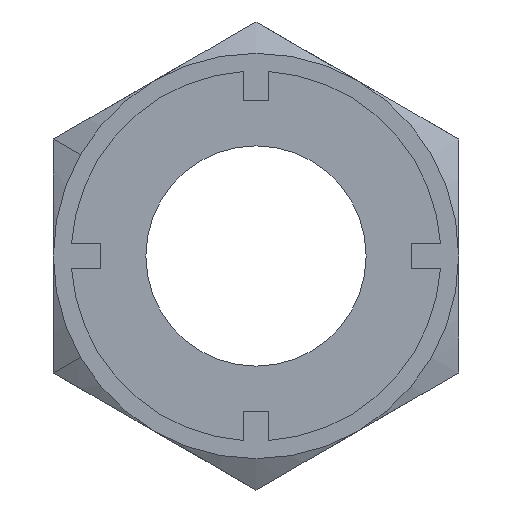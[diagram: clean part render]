
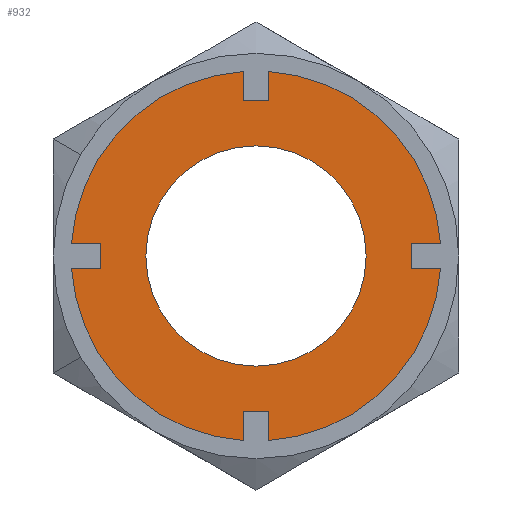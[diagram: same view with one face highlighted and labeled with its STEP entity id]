
A CAD part, left-side view. The second image highlights one B-rep face of the part: STEP entity #932.
In plain terms, the highlighted planar face has unit normal (-1, 0, 0).
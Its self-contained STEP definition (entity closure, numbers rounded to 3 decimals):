
#130=CARTESIAN_POINT('',(-30.0,0.,12.5));
#131=VERTEX_POINT('',#130);
#140=CARTESIAN_POINT('',(-30.0,12.5,0.0));
#141=VERTEX_POINT('',#140);
#142=CARTESIAN_POINT('',(-30.0,0.0,0.0));
#143=DIRECTION('',(1.0,0.0,0.0));
#144=DIRECTION('',(0.0,1.0,0.0));
#145=AXIS2_PLACEMENT_3D('',#142,#143,#144);
#146=CIRCLE('',#145,12.5);
#147=EDGE_CURVE('',#141,#131,#146,.T.);
#332=CARTESIAN_POINT('',(-30.0,0.,-12.5));
#333=VERTEX_POINT('',#332);
#342=CARTESIAN_POINT('',(-30.0,-12.5,0.));
#343=VERTEX_POINT('',#342);
#344=CARTESIAN_POINT('',(-30.0,0.0,0.0));
#345=DIRECTION('',(1.0,0.0,0.0));
#346=DIRECTION('',(0.0,1.0,0.0));
#347=AXIS2_PLACEMENT_3D('',#344,#345,#346);
#348=CIRCLE('',#347,12.5);
#349=EDGE_CURVE('',#343,#333,#348,.T.);
#383=CARTESIAN_POINT('',(-30.0,0.0,0.0));
#384=DIRECTION('',(1.0,0.0,0.0));
#385=DIRECTION('',(0.0,1.0,0.0));
#386=AXIS2_PLACEMENT_3D('',#383,#384,#385);
#387=CIRCLE('',#386,12.5);
#388=EDGE_CURVE('',#333,#141,#387,.T.);
#400=CARTESIAN_POINT('',(-30.0,20.95,1.45));
#401=VERTEX_POINT('',#400);
#416=CARTESIAN_POINT('',(-30.0,17.6,1.45));
#417=VERTEX_POINT('',#416);
#424=CARTESIAN_POINT('',(-30.0,20.95,1.45));
#425=DIRECTION('',(0.0,-1.0,0.0));
#426=VECTOR('',#425,3.35);
#427=LINE('',#424,#426);
#428=EDGE_CURVE('',#401,#417,#427,.T.);
#438=CARTESIAN_POINT('',(-30.0,20.95,-1.45));
#439=VERTEX_POINT('',#438);
#448=CARTESIAN_POINT('',(-30.0,17.6,-1.45));
#449=VERTEX_POINT('',#448);
#450=CARTESIAN_POINT('',(-30.0,17.6,-1.45));
#451=DIRECTION('',(0.0,1.0,0.0));
#452=VECTOR('',#451,3.35);
#453=LINE('',#450,#452);
#454=EDGE_CURVE('',#449,#439,#453,.T.);
#485=CARTESIAN_POINT('',(-30.0,17.6,1.45));
#486=DIRECTION('',(0.0,0.0,-1.0));
#487=VECTOR('',#486,2.9);
#488=LINE('',#485,#487);
#489=EDGE_CURVE('',#417,#449,#488,.T.);
#502=CARTESIAN_POINT('',(-30.0,-1.45,20.95));
#503=VERTEX_POINT('',#502);
#518=CARTESIAN_POINT('',(-30.0,-1.45,17.6));
#519=VERTEX_POINT('',#518);
#526=CARTESIAN_POINT('',(-30.0,-1.45,20.95));
#527=DIRECTION('',(0.0,0.0,-1.0));
#528=VECTOR('',#527,3.35);
#529=LINE('',#526,#528);
#530=EDGE_CURVE('',#503,#519,#529,.T.);
#540=CARTESIAN_POINT('',(-30.0,1.45,20.95));
#541=VERTEX_POINT('',#540);
#550=CARTESIAN_POINT('',(-30.0,1.45,17.6));
#551=VERTEX_POINT('',#550);
#552=CARTESIAN_POINT('',(-30.0,1.45,17.6));
#553=DIRECTION('',(0.0,0.0,1.0));
#554=VECTOR('',#553,3.35);
#555=LINE('',#552,#554);
#556=EDGE_CURVE('',#551,#541,#555,.T.);
#587=CARTESIAN_POINT('',(-30.0,-1.45,17.6));
#588=DIRECTION('',(0.0,1.0,0.0));
#589=VECTOR('',#588,2.9);
#590=LINE('',#587,#589);
#591=EDGE_CURVE('',#519,#551,#590,.T.);
#604=CARTESIAN_POINT('',(-30.0,-20.95,-1.45));
#605=VERTEX_POINT('',#604);
#620=CARTESIAN_POINT('',(-30.0,-17.6,-1.45));
#621=VERTEX_POINT('',#620);
#628=CARTESIAN_POINT('',(-30.0,-20.95,-1.45));
#629=DIRECTION('',(0.0,1.0,0.0));
#630=VECTOR('',#629,3.35);
#631=LINE('',#628,#630);
#632=EDGE_CURVE('',#605,#621,#631,.T.);
#642=CARTESIAN_POINT('',(-30.0,-20.95,1.45));
#643=VERTEX_POINT('',#642);
#652=CARTESIAN_POINT('',(-30.0,-17.6,1.45));
#653=VERTEX_POINT('',#652);
#654=CARTESIAN_POINT('',(-30.0,-17.6,1.45));
#655=DIRECTION('',(0.0,-1.0,0.0));
#656=VECTOR('',#655,3.35);
#657=LINE('',#654,#656);
#658=EDGE_CURVE('',#653,#643,#657,.T.);
#689=CARTESIAN_POINT('',(-30.0,-17.6,-1.45));
#690=DIRECTION('',(0.0,0.0,1.0));
#691=VECTOR('',#690,2.9);
#692=LINE('',#689,#691);
#693=EDGE_CURVE('',#621,#653,#692,.T.);
#706=CARTESIAN_POINT('',(-30.0,1.45,-20.95));
#707=VERTEX_POINT('',#706);
#722=CARTESIAN_POINT('',(-30.0,1.45,-17.6));
#723=VERTEX_POINT('',#722);
#730=CARTESIAN_POINT('',(-30.0,1.45,-20.95));
#731=DIRECTION('',(0.0,0.0,1.0));
#732=VECTOR('',#731,3.35);
#733=LINE('',#730,#732);
#734=EDGE_CURVE('',#707,#723,#733,.T.);
#744=CARTESIAN_POINT('',(-30.0,-1.45,-20.95));
#745=VERTEX_POINT('',#744);
#754=CARTESIAN_POINT('',(-30.0,-1.45,-17.6));
#755=VERTEX_POINT('',#754);
#756=CARTESIAN_POINT('',(-30.0,-1.45,-17.6));
#757=DIRECTION('',(0.0,0.0,-1.0));
#758=VECTOR('',#757,3.35);
#759=LINE('',#756,#758);
#760=EDGE_CURVE('',#755,#745,#759,.T.);
#791=CARTESIAN_POINT('',(-30.0,1.45,-17.6));
#792=DIRECTION('',(0.0,-1.0,0.0));
#793=VECTOR('',#792,2.9);
#794=LINE('',#791,#793);
#795=EDGE_CURVE('',#723,#755,#794,.T.);
#807=CARTESIAN_POINT('',(-30.0,0.0,0.0));
#808=DIRECTION('',(1.0,0.0,0.0));
#809=DIRECTION('',(0.0,1.0,0.0));
#810=AXIS2_PLACEMENT_3D('',#807,#808,#809);
#811=CIRCLE('',#810,21.0);
#812=EDGE_CURVE('',#605,#745,#811,.T.);
#831=CARTESIAN_POINT('',(-30.0,0.0,0.0));
#832=DIRECTION('',(1.0,0.0,0.0));
#833=DIRECTION('',(0.0,1.0,0.0));
#834=AXIS2_PLACEMENT_3D('',#831,#832,#833);
#835=CIRCLE('',#834,21.0);
#836=EDGE_CURVE('',#503,#643,#835,.T.);
#863=CARTESIAN_POINT('',(-30.0,0.0,0.0));
#864=DIRECTION('',(1.0,0.0,0.0));
#865=DIRECTION('',(0.0,1.0,0.0));
#866=AXIS2_PLACEMENT_3D('',#863,#864,#865);
#867=CIRCLE('',#866,21.0);
#868=EDGE_CURVE('',#707,#439,#867,.T.);
#879=CARTESIAN_POINT('',(-30.0,0.0,0.0));
#880=DIRECTION('',(1.0,0.0,0.0));
#881=DIRECTION('',(0.0,1.0,0.0));
#882=AXIS2_PLACEMENT_3D('',#879,#880,#881);
#883=CIRCLE('',#882,21.0);
#884=EDGE_CURVE('',#401,#541,#883,.T.);
#897=CARTESIAN_POINT('',(-30.0,-23.045,-23.045));
#898=DIRECTION('',(-1.0,0.0,0.0));
#899=DIRECTION('',(0.0,0.0,1.0));
#900=AXIS2_PLACEMENT_3D('',#897,#898,#899);
#901=PLANE('',#900);
#902=ORIENTED_EDGE('',*,*,#428,.T.);
#903=ORIENTED_EDGE('',*,*,#489,.T.);
#904=ORIENTED_EDGE('',*,*,#454,.T.);
#905=ORIENTED_EDGE('',*,*,#868,.F.);
#906=ORIENTED_EDGE('',*,*,#734,.T.);
#907=ORIENTED_EDGE('',*,*,#795,.T.);
#908=ORIENTED_EDGE('',*,*,#760,.T.);
#909=ORIENTED_EDGE('',*,*,#812,.F.);
#910=ORIENTED_EDGE('',*,*,#632,.T.);
#911=ORIENTED_EDGE('',*,*,#693,.T.);
#912=ORIENTED_EDGE('',*,*,#658,.T.);
#913=ORIENTED_EDGE('',*,*,#836,.F.);
#914=ORIENTED_EDGE('',*,*,#530,.T.);
#915=ORIENTED_EDGE('',*,*,#591,.T.);
#916=ORIENTED_EDGE('',*,*,#556,.T.);
#917=ORIENTED_EDGE('',*,*,#884,.F.);
#918=EDGE_LOOP('',(#902,#903,#904,#905,#906,#907,#908,#909,#910,#911,#912,#913,#914,#915,#916,#917));
#919=FACE_OUTER_BOUND('',#918,.T.);
#920=ORIENTED_EDGE('',*,*,#147,.T.);
#921=CARTESIAN_POINT('',(-30.0,0.0,0.0));
#922=DIRECTION('',(1.0,0.0,0.0));
#923=DIRECTION('',(0.0,1.0,0.0));
#924=AXIS2_PLACEMENT_3D('',#921,#922,#923);
#925=CIRCLE('',#924,12.5);
#926=EDGE_CURVE('',#131,#343,#925,.T.);
#927=ORIENTED_EDGE('',*,*,#926,.T.);
#928=ORIENTED_EDGE('',*,*,#349,.T.);
#929=ORIENTED_EDGE('',*,*,#388,.T.);
#930=EDGE_LOOP('',(#920,#927,#928,#929));
#931=FACE_BOUND('',#930,.T.);
#932=ADVANCED_FACE('',(#919,#931),#901,.T.);
